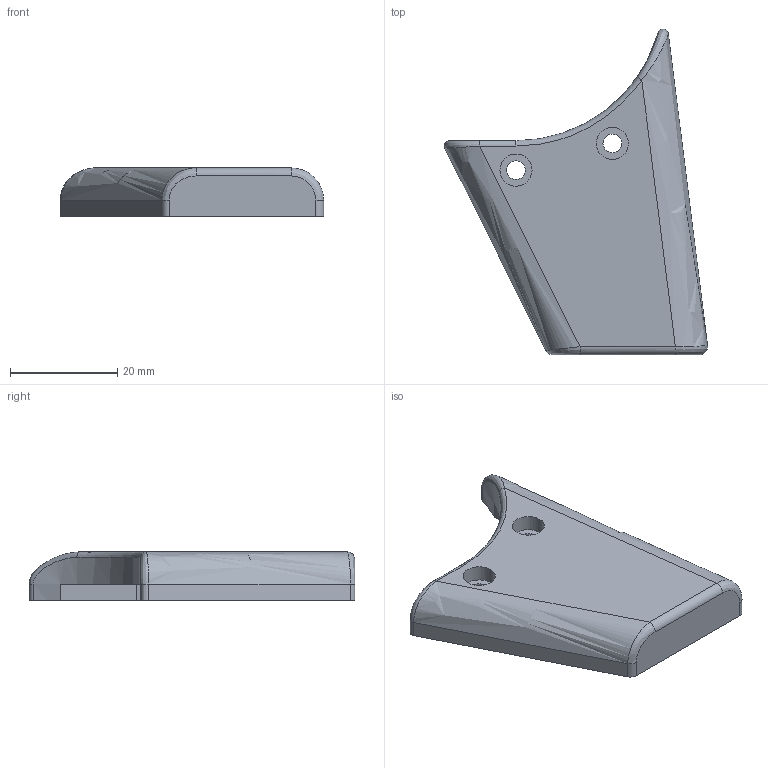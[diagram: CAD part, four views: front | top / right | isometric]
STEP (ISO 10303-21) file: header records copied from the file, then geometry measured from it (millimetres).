
FILE_DESCRIPTION(/* description */ (''),/* implementation_level */ '2;1');
FILE_NAME(/* name */ 'GRIP-1~4',/* time_stamp */ '2015-10-29T17:11:45+09:00',/* author */ (''),/* organization */ (''),/* preprocessor_version */ 'ST-DEVELOPER v15',/* originating_system */ '',/* authorisation */ '');
FILE_SCHEMA (('CONFIG_CONTROL_DESIGN'));
Length unit declared in the file: millimetre
Products named in the file (1): Document
Bounding box: 49.18 x 60.85 x 9 mm (x, y, z)
Volume: 12961.4 mm3; surface area: 4967.5 mm2
Topology: 1 solids, 1 shells, 39 faces, 93 edges, 59 vertices
Faces by surface type: bspline 33, plane 6
Entity records: 1415 total; most frequent: CARTESIAN_POINT 792, ORIENTED_EDGE 186, EDGE_CURVE 93, VERTEX_POINT 59, EDGE_LOOP 46, ADVANCED_FACE 39, FACE_OUTER_BOUND 39, B_SPLINE_CURVE_WITH_KNOTS 38
